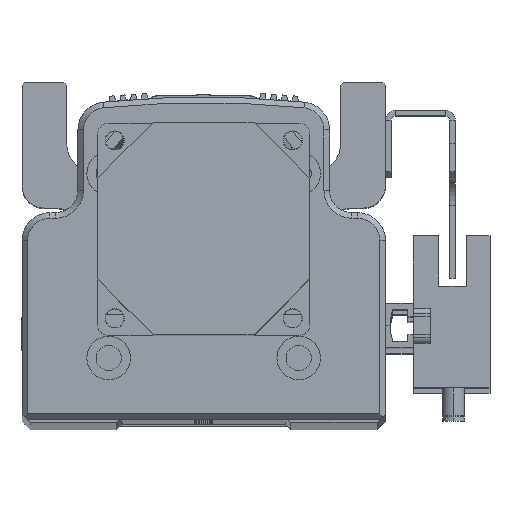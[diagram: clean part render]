
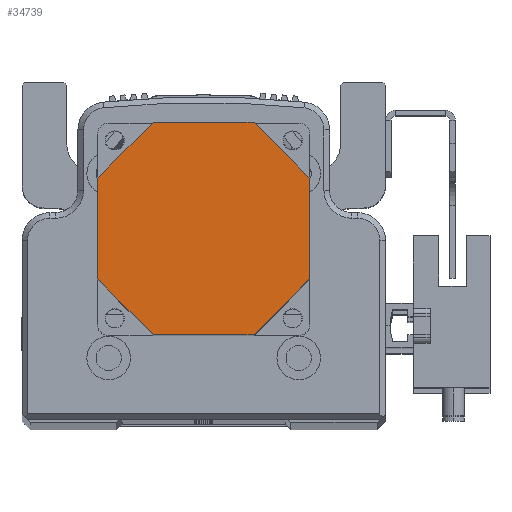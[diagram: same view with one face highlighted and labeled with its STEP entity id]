
A CAD part, top view. The second image highlights one B-rep face of the part: STEP entity #34739.
In plain terms, the highlighted planar face has unit normal (0, 0, 1) as drawn and (0, 0, -1) by its records, which use the part's own axes.
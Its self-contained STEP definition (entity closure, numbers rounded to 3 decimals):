
#8 = CARTESIAN_POINT ( 'NONE',  ( -9., -19., -84. ) ) ;
#3688 = EDGE_CURVE ( 'NONE', #12216, #13839, #13373, .T. ) ;
#3703 = EDGE_CURVE ( 'NONE', #13777, #12077, #13339, .T. ) ;
#3712 = EDGE_CURVE ( 'NONE', #13843, #13873, #13332, .T. ) ;
#3727 = EDGE_CURVE ( 'NONE', #13873, #12084, #13449, .T. ) ;
#3738 = EDGE_CURVE ( 'NONE', #12084, #13831, #13430, .T. ) ;
#3748 = EDGE_CURVE ( 'NONE', #13839, #13843, #13446, .T. ) ;
#3763 = EDGE_CURVE ( 'NONE', #13831, #13777, #13437, .T. ) ;
#3767 = EDGE_CURVE ( 'NONE', #12077, #12216, #13405, .T. ) ;
#5594 = CARTESIAN_POINT ( 'NONE',  ( -9., -19., -84. ) ) ;
#5597 = DIRECTION ( 'NONE',  ( -0.707, 0.707, 0. ) ) ;
#5610 = CARTESIAN_POINT ( 'NONE',  ( 19., -9., -84. ) ) ;
#5616 = DIRECTION ( 'NONE',  ( -0.707, -0.707, 0. ) ) ;
#5636 = CARTESIAN_POINT ( 'NONE',  ( 9., 19., -84. ) ) ;
#5637 = DIRECTION ( 'NONE',  ( 1., 0., 0. ) ) ;
#5638 = CARTESIAN_POINT ( 'NONE',  ( -9., 19., -84. ) ) ;
#5665 = DIRECTION ( 'NONE',  ( 0.707, 0.707, 0. ) ) ;
#5676 = DIRECTION ( 'NONE',  ( 0., 1., 0. ) ) ;
#5677 = CARTESIAN_POINT ( 'NONE',  ( -19., 9., -84. ) ) ;
#5695 = CARTESIAN_POINT ( 'NONE',  ( 19., 9., -84. ) ) ;
#5704 = DIRECTION ( 'NONE',  ( 0.707, -0.707, 0. ) ) ;
#5706 = CARTESIAN_POINT ( 'NONE',  ( 9., -19., -84. ) ) ;
#5710 = DIRECTION ( 'NONE',  ( 0., -1., 0. ) ) ;
#5721 = DIRECTION ( 'NONE',  ( -1., 0., 0. ) ) ;
#5737 = CARTESIAN_POINT ( 'NONE',  ( 19., 9., -84. ) ) ;
#8475 = CARTESIAN_POINT ( 'NONE',  ( -19., 9., -84. ) ) ;
#8505 = CARTESIAN_POINT ( 'NONE',  ( -19., -9., -84. ) ) ;
#8532 = CARTESIAN_POINT ( 'NONE',  ( -9., 19., -84. ) ) ;
#8728 = CARTESIAN_POINT ( 'NONE',  ( 19., -9., -84. ) ) ;
#8737 = CARTESIAN_POINT ( 'NONE',  ( 19., 9., -84. ) ) ;
#9080 = EDGE_LOOP ( 'NONE', ( #29773, #29722, #29706, #29699, #29769, #29754, #29762, #29701 ) ) ;
#12077 = VERTEX_POINT ( 'NONE', #16224 ) ;
#12084 = VERTEX_POINT ( 'NONE', #16258 ) ;
#12216 = VERTEX_POINT ( 'NONE', #8 ) ;
#13332 = LINE ( 'NONE', #5638, #13333 ) ;
#13333 = VECTOR ( 'NONE', #5665, 1000. ) ;
#13339 = LINE ( 'NONE', #5610, #13349 ) ;
#13349 = VECTOR ( 'NONE', #5616, 1000. ) ;
#13358 = VECTOR ( 'NONE', #5597, 1000. ) ;
#13373 = LINE ( 'NONE', #5594, #13358 ) ;
#13403 = VECTOR ( 'NONE', #5710, 1000. ) ;
#13405 = LINE ( 'NONE', #5706, #13415 ) ;
#13406 = VECTOR ( 'NONE', #5676, 1000. ) ;
#13413 = VECTOR ( 'NONE', #5637, 1000. ) ;
#13415 = VECTOR ( 'NONE', #5721, 1000. ) ;
#13430 = LINE ( 'NONE', #5695, #13452 ) ;
#13437 = LINE ( 'NONE', #5737, #13403 ) ;
#13446 = LINE ( 'NONE', #5677, #13406 ) ;
#13449 = LINE ( 'NONE', #5636, #13413 ) ;
#13452 = VECTOR ( 'NONE', #5704, 1000. ) ;
#13777 = VERTEX_POINT ( 'NONE', #8728 ) ;
#13831 = VERTEX_POINT ( 'NONE', #8737 ) ;
#13839 = VERTEX_POINT ( 'NONE', #8505 ) ;
#13843 = VERTEX_POINT ( 'NONE', #8475 ) ;
#13873 = VERTEX_POINT ( 'NONE', #8532 ) ;
#16224 = CARTESIAN_POINT ( 'NONE',  ( 9., -19., -84. ) ) ;
#16258 = CARTESIAN_POINT ( 'NONE',  ( 9., 19., -84. ) ) ;
#23961 = FACE_OUTER_BOUND ( 'NONE', #9080, .T. ) ;
#26973 = PLANE ( 'NONE',  #33415 ) ;
#26982 = DIRECTION ( 'NONE',  ( 0., 0., 1. ) ) ;
#26990 = DIRECTION ( 'NONE',  ( 1., 0., 0. ) ) ;
#27010 = CARTESIAN_POINT ( 'NONE',  ( 0., 0., -84. ) ) ;
#29699 = ORIENTED_EDGE ( 'NONE', *, *, #3727, .T. ) ;
#29701 = ORIENTED_EDGE ( 'NONE', *, *, #3767, .T. ) ;
#29706 = ORIENTED_EDGE ( 'NONE', *, *, #3712, .T. ) ;
#29722 = ORIENTED_EDGE ( 'NONE', *, *, #3748, .T. ) ;
#29754 = ORIENTED_EDGE ( 'NONE', *, *, #3763, .T. ) ;
#29762 = ORIENTED_EDGE ( 'NONE', *, *, #3703, .T. ) ;
#29769 = ORIENTED_EDGE ( 'NONE', *, *, #3738, .T. ) ;
#29773 = ORIENTED_EDGE ( 'NONE', *, *, #3688, .T. ) ;
#33415 = AXIS2_PLACEMENT_3D ( 'NONE', #27010, #26982, #26990 ) ;
#34739 = ADVANCED_FACE ( 'NONE', ( #23961 ), #26973, .F. ) ;
